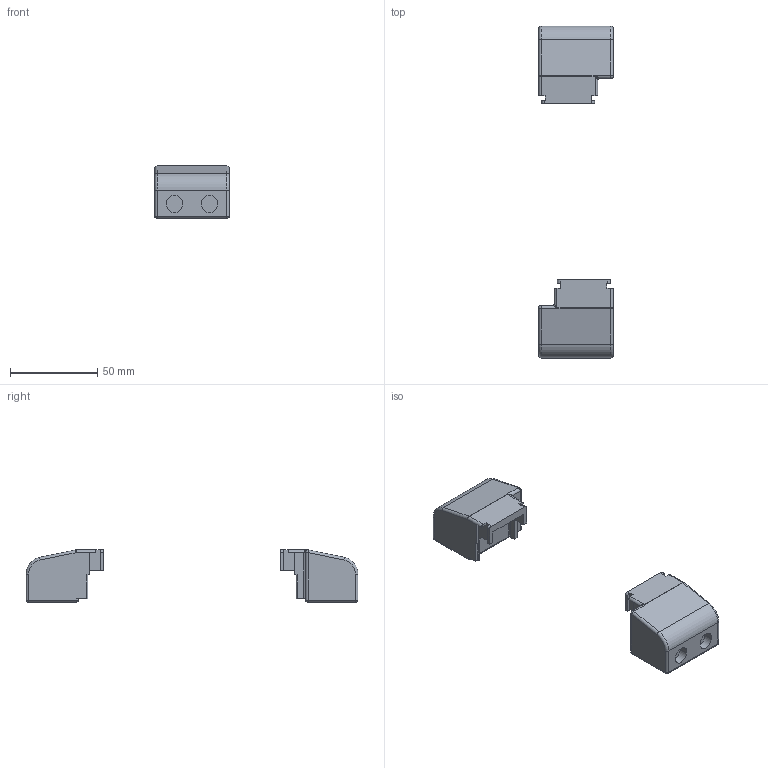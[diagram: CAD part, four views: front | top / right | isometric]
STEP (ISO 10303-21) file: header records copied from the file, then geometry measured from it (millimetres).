
FILE_DESCRIPTION((''),'2;1');
FILE_NAME('DEWI_SR-STD_DMEC_ASSY_130','2015-12-16T',('emanuel.wild'),(''),'PRO/ENGINEER BY PARAMETRIC TECHNOLOGY CORPORATION, 2015200','PRO/ENGINEER BY PARAMETRIC TECHNOLOGY CORPORATION, 2015200','');
FILE_SCHEMA(('AUTOMOTIVE_DESIGN { 1 0 10303 214 1 1 1 1 }'));
Length unit declared in the file: millimetre
Products named in the file (2): DEWI_SR-STD_DMEC; DEWI_SR-STD_DMEC_ASSY_130
Assembly tree (2 placements, depth 2):
  DEWI_SR-STD_DMEC_ASSY_130
    DEWI_SR-STD_DMEC  x2
Bounding box: 42.8 x 190 x 29.8 mm (x, y, z)
Volume: 66408.4 mm3; surface area: 18943.6 mm2
Topology: 2 solids, 2 shells, 196 faces, 504 edges, 316 vertices
Faces by surface type: plane 112, cylinder 58, bspline 12, sphere 8, torus 6
Entity records: 3847 total; most frequent: CARTESIAN_POINT 770, DIRECTION 504, ORIENTED_EDGE 504, EDGE_CURVE 252, VECTOR 180, LINE 180, AXIS2_PLACEMENT_3D 162, VERTEX_POINT 158
